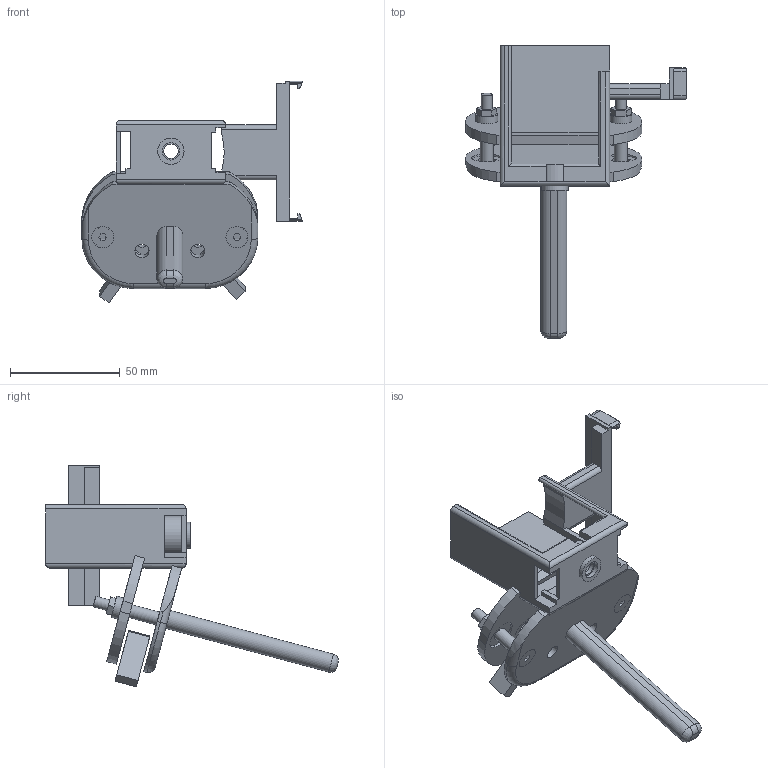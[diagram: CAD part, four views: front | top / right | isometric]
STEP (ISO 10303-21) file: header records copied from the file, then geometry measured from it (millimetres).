
FILE_DESCRIPTION(('Open CASCADE Model'),'2;1');
FILE_NAME('Open CASCADE Shape Model','2026-11-14T14:49:22',('Author'),( 'Open CASCADE'),'Open CASCADE STEP processor 8.0','Open CASCADE 8.0' ,'Unknown');
FILE_SCHEMA(('AUTOMOTIVE_DESIGN { 1 0 10303 214 1 1 1 1 }'));
Length unit declared in the file: millimetre
Products named in the file (11): genumi-robotiq-2f85-open-hardware-countersunk-pivots; Open CASCADE STEP translator 8.0 3.1; Left Drive Link Connector; Right Drive Link Connector; Left Outer Chassis Countersunk Shoulder Screw; Left Outer Chassis Retaining Washer; Left Outer Chassis Retaining Nut; Right Outer Chassis Countersunk Shoulder Screw; Right Outer Chassis Retaining Washer; Right Outer Chassis Retaining Nut; Open CASCADE STEP translator 8.0 3.10
Assembly tree (10 placements, depth 2):
  genumi-robotiq-2f85-open-hardware-countersunk-pivots
    Open CASCADE STEP translator 8.0 3.1
    Left Drive Link Connector
    Right Drive Link Connector
    Left Outer Chassis Countersunk Shoulder Screw
    Left Outer Chassis Retaining Washer
    Left Outer Chassis Retaining Nut
    Right Outer Chassis Countersunk Shoulder Screw
    Right Outer Chassis Retaining Washer
    Right Outer Chassis Retaining Nut
    Open CASCADE STEP translator 8.0 3.10
Bounding box: 100.51 x 133.41 x 101.18 mm (x, y, z)
Volume: 65895.1 mm3; surface area: 41959.2 mm2
Topology: 10 solids, 10 shells, 263 faces, 675 edges, 441 vertices
Faces by surface type: plane 186, cylinder 69, cone 4, torus 2, revolution 2
Full cylindrical faces by diameter (mm): 5 x4, 6 x2, 6.2 x2, 6.4 x6, 6.6 x2, 8 x1, 10 x2, 12 x1, 14 x6, 18 x1
Entity records: 18863 total; most frequent: CARTESIAN_POINT 4876, DIRECTION 2637, LINE 1622, VECTOR 1622, ORIENTED_EDGE 1350, PCURVE 1350, DEFINITIONAL_REPRESENTATION 1350, EDGE_CURVE 675
